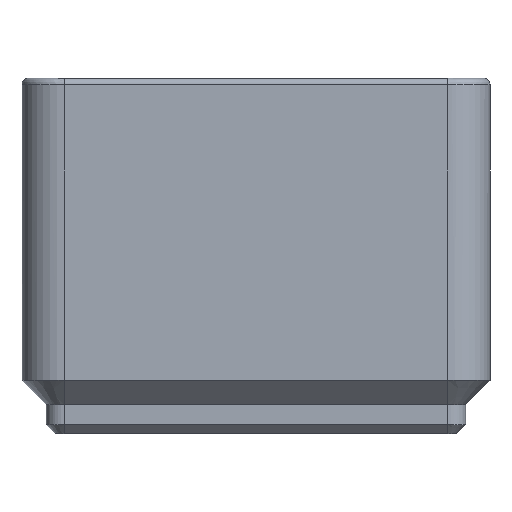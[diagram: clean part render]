
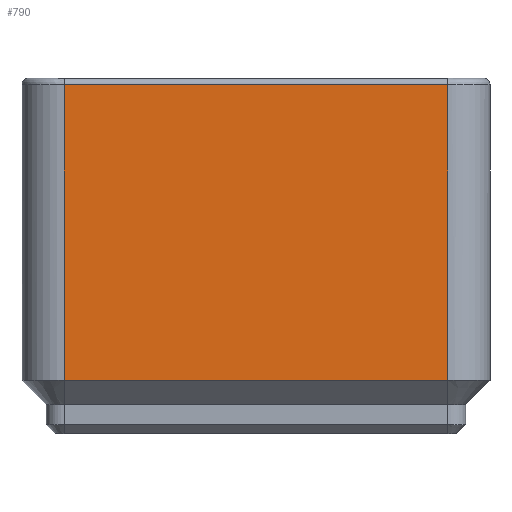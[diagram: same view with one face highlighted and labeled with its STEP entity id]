
A CAD part, left-side view. The second image highlights one B-rep face of the part: STEP entity #790.
In plain terms, the highlighted planar face has unit normal (-1, 0, 0).
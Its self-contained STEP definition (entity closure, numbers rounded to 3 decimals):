
#70 = CYLINDRICAL_SURFACE('',#71,0.6);
#71 = AXIS2_PLACEMENT_3D('',#72,#73,#74);
#72 = CARTESIAN_POINT('',(-20.15,-17.,30.951));
#73 = DIRECTION('',(0.,1.,0.));
#74 = DIRECTION('',(0.707,-0.,0.707));
#279 = VERTEX_POINT('',#280);
#280 = CARTESIAN_POINT('',(-20.75,-17.,30.951));
#308 = EDGE_CURVE('',#279,#309,#311,.T.);
#309 = VERTEX_POINT('',#310);
#310 = CARTESIAN_POINT('',(-20.75,17.,30.951));
#311 = SURFACE_CURVE('',#312,(#316,#323),.PCURVE_S1.);
#312 = LINE('',#313,#314);
#313 = CARTESIAN_POINT('',(-20.75,-17.,30.951));
#314 = VECTOR('',#315,1.);
#315 = DIRECTION('',(0.,1.,0.));
#316 = PCURVE('',#70,#317);
#317 = DEFINITIONAL_REPRESENTATION('',(#318),#322);
#318 = LINE('',#319,#320);
#319 = CARTESIAN_POINT('',(-2.356,0.));
#320 = VECTOR('',#321,1.);
#321 = DIRECTION('',(-0.,1.));
#322 = ( GEOMETRIC_REPRESENTATION_CONTEXT(2) 
PARAMETRIC_REPRESENTATION_CONTEXT() REPRESENTATION_CONTEXT('2D SPACE',''
  ) );
#323 = PCURVE('',#324,#329);
#324 = PLANE('',#325);
#325 = AXIS2_PLACEMENT_3D('',#326,#327,#328);
#326 = CARTESIAN_POINT('',(-20.75,-17.,2.6));
#327 = DIRECTION('',(-1.,0.,0.));
#328 = DIRECTION('',(0.,1.,0.));
#329 = DEFINITIONAL_REPRESENTATION('',(#330),#334);
#330 = LINE('',#331,#332);
#331 = CARTESIAN_POINT('',(0.,-28.351));
#332 = VECTOR('',#333,1.);
#333 = DIRECTION('',(1.,0.));
#334 = ( GEOMETRIC_REPRESENTATION_CONTEXT(2) 
PARAMETRIC_REPRESENTATION_CONTEXT() REPRESENTATION_CONTEXT('2D SPACE',''
  ) );
#717 = CYLINDRICAL_SURFACE('',#718,3.75);
#718 = AXIS2_PLACEMENT_3D('',#719,#720,#721);
#719 = CARTESIAN_POINT('',(-17.,-17.,2.6));
#720 = DIRECTION('',(0.,0.,-1.));
#721 = DIRECTION('',(-1.,0.,0.));
#790 = ADVANCED_FACE('',(#791),#324,.T.);
#791 = FACE_BOUND('',#792,.T.);
#792 = EDGE_LOOP('',(#793,#816,#817,#845));
#793 = ORIENTED_EDGE('',*,*,#794,.T.);
#794 = EDGE_CURVE('',#795,#279,#797,.T.);
#795 = VERTEX_POINT('',#796);
#796 = CARTESIAN_POINT('',(-20.75,-17.,4.75));
#797 = SURFACE_CURVE('',#798,(#802,#809),.PCURVE_S1.);
#798 = LINE('',#799,#800);
#799 = CARTESIAN_POINT('',(-20.75,-17.,4.75));
#800 = VECTOR('',#801,1.);
#801 = DIRECTION('',(0.,0.,1.));
#802 = PCURVE('',#324,#803);
#803 = DEFINITIONAL_REPRESENTATION('',(#804),#808);
#804 = LINE('',#805,#806);
#805 = CARTESIAN_POINT('',(0.,-2.15));
#806 = VECTOR('',#807,1.);
#807 = DIRECTION('',(0.,-1.));
#808 = ( GEOMETRIC_REPRESENTATION_CONTEXT(2) 
PARAMETRIC_REPRESENTATION_CONTEXT() REPRESENTATION_CONTEXT('2D SPACE',''
  ) );
#809 = PCURVE('',#717,#810);
#810 = DEFINITIONAL_REPRESENTATION('',(#811),#815);
#811 = LINE('',#812,#813);
#812 = CARTESIAN_POINT('',(6.283,-2.15));
#813 = VECTOR('',#814,1.);
#814 = DIRECTION('',(0.,-1.));
#815 = ( GEOMETRIC_REPRESENTATION_CONTEXT(2) 
PARAMETRIC_REPRESENTATION_CONTEXT() REPRESENTATION_CONTEXT('2D SPACE',''
  ) );
#816 = ORIENTED_EDGE('',*,*,#308,.T.);
#817 = ORIENTED_EDGE('',*,*,#818,.T.);
#818 = EDGE_CURVE('',#309,#819,#821,.T.);
#819 = VERTEX_POINT('',#820);
#820 = CARTESIAN_POINT('',(-20.75,17.,4.75));
#821 = SURFACE_CURVE('',#822,(#826,#833),.PCURVE_S1.);
#822 = LINE('',#823,#824);
#823 = CARTESIAN_POINT('',(-20.75,17.,32.4));
#824 = VECTOR('',#825,1.);
#825 = DIRECTION('',(0.,0.,-1.));
#826 = PCURVE('',#324,#827);
#827 = DEFINITIONAL_REPRESENTATION('',(#828),#832);
#828 = LINE('',#829,#830);
#829 = CARTESIAN_POINT('',(34.,-29.8));
#830 = VECTOR('',#831,1.);
#831 = DIRECTION('',(0.,1.));
#832 = ( GEOMETRIC_REPRESENTATION_CONTEXT(2) 
PARAMETRIC_REPRESENTATION_CONTEXT() REPRESENTATION_CONTEXT('2D SPACE',''
  ) );
#833 = PCURVE('',#834,#839);
#834 = CYLINDRICAL_SURFACE('',#835,3.75);
#835 = AXIS2_PLACEMENT_3D('',#836,#837,#838);
#836 = CARTESIAN_POINT('',(-17.,17.,2.6));
#837 = DIRECTION('',(0.,0.,-1.));
#838 = DIRECTION('',(-1.,0.,0.));
#839 = DEFINITIONAL_REPRESENTATION('',(#840),#844);
#840 = LINE('',#841,#842);
#841 = CARTESIAN_POINT('',(0.,-29.8));
#842 = VECTOR('',#843,1.);
#843 = DIRECTION('',(-0.,1.));
#844 = ( GEOMETRIC_REPRESENTATION_CONTEXT(2) 
PARAMETRIC_REPRESENTATION_CONTEXT() REPRESENTATION_CONTEXT('2D SPACE',''
  ) );
#845 = ORIENTED_EDGE('',*,*,#846,.F.);
#846 = EDGE_CURVE('',#795,#819,#847,.T.);
#847 = SURFACE_CURVE('',#848,(#852,#859),.PCURVE_S1.);
#848 = LINE('',#849,#850);
#849 = CARTESIAN_POINT('',(-20.75,-17.,4.75));
#850 = VECTOR('',#851,1.);
#851 = DIRECTION('',(0.,1.,0.));
#852 = PCURVE('',#324,#853);
#853 = DEFINITIONAL_REPRESENTATION('',(#854),#858);
#854 = LINE('',#855,#856);
#855 = CARTESIAN_POINT('',(0.,-2.15));
#856 = VECTOR('',#857,1.);
#857 = DIRECTION('',(1.,0.));
#858 = ( GEOMETRIC_REPRESENTATION_CONTEXT(2) 
PARAMETRIC_REPRESENTATION_CONTEXT() REPRESENTATION_CONTEXT('2D SPACE',''
  ) );
#859 = PCURVE('',#860,#865);
#860 = PLANE('',#861);
#861 = AXIS2_PLACEMENT_3D('',#862,#863,#864);
#862 = CARTESIAN_POINT('',(-19.675,-17.,3.675));
#863 = DIRECTION('',(0.707,0.,0.707)
  );
#864 = DIRECTION('',(0.,-1.,0.));
#865 = DEFINITIONAL_REPRESENTATION('',(#866),#870);
#866 = LINE('',#867,#868);
#867 = CARTESIAN_POINT('',(-0.,-1.52));
#868 = VECTOR('',#869,1.);
#869 = DIRECTION('',(-1.,0.));
#870 = ( GEOMETRIC_REPRESENTATION_CONTEXT(2) 
PARAMETRIC_REPRESENTATION_CONTEXT() REPRESENTATION_CONTEXT('2D SPACE',''
  ) );
